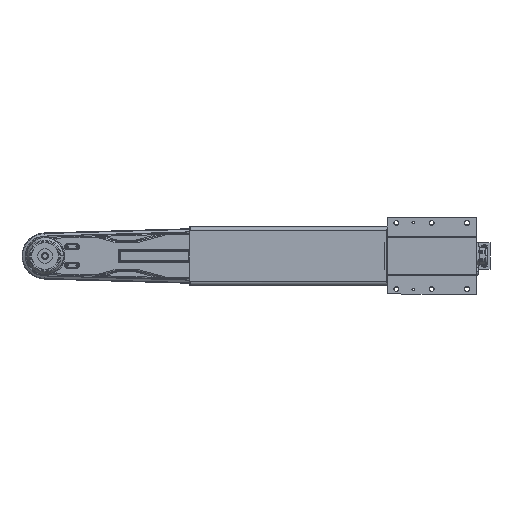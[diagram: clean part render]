
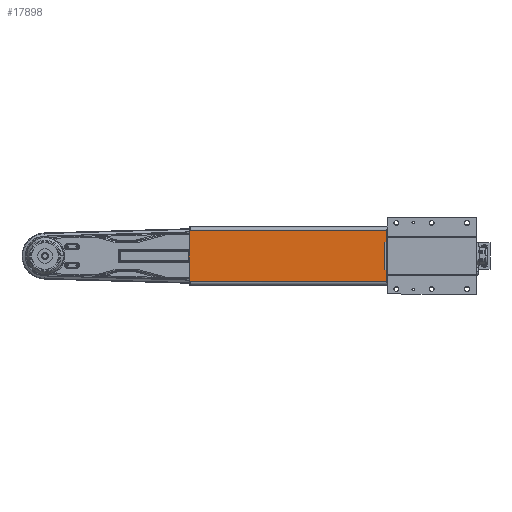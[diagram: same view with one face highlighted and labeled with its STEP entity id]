
A CAD part, front view. The second image highlights one B-rep face of the part: STEP entity #17898.
In plain terms, the highlighted planar face has unit normal (0, -1, 0).
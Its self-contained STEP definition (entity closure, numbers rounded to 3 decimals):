
#16780=DIRECTION('',(0.,0.,-1.));
#16781=VECTOR('',#16780,136.425);
#16782=CARTESIAN_POINT('',(-612.,194.,68.213));
#16783=LINE('',#16782,#16781);
#16817=CARTESIAN_POINT('',(-610.,194.,-68.345));
#16818=CARTESIAN_POINT('',(-610.,194.,-68.323));
#16819=CARTESIAN_POINT('',(-610.,194.,-68.279));
#16820=CARTESIAN_POINT('',(-610.,194.,-68.235));
#16821=CARTESIAN_POINT('',(-610.,194.,-68.213));
#16823=DIRECTION('',(1.,0.,0.));
#16824=VECTOR('',#16823,2.);
#16825=CARTESIAN_POINT('',(-612.,194.,68.213));
#16826=LINE('',#16825,#16824);
#16827=CARTESIAN_POINT('',(-610.,194.,68.213));
#16828=CARTESIAN_POINT('',(-610.,194.,68.237));
#16829=CARTESIAN_POINT('',(-610.,194.,68.285));
#16830=CARTESIAN_POINT('',(-610.,194.,68.333));
#16831=CARTESIAN_POINT('',(-610.,194.,68.357));
#16833=DIRECTION('',(1.,0.,0.));
#16834=VECTOR('',#16833,2.);
#16835=CARTESIAN_POINT('',(-612.,194.,-68.213));
#16836=LINE('',#16835,#16834);
#17126=DIRECTION('',(-1.,0.,0.));
#17127=VECTOR('',#17126,590.809);
#17128=CARTESIAN_POINT('',(-19.191,194.,68.357));
#17129=LINE('',#17128,#17127);
#17135=CARTESIAN_POINT('',(0.,194.,0.));
#17136=DIRECTION('',(0.,-1.,0.));
#17137=DIRECTION('',(-0.27,0.,0.963));
#17138=AXIS2_PLACEMENT_3D('',#17135,#17136,#17137);
#17169=CARTESIAN_POINT('',(0.,194.,0.));
#17170=DIRECTION('',(0.,1.,0.));
#17171=DIRECTION('',(-0.271,0.,-0.963));
#17172=AXIS2_PLACEMENT_3D('',#17169,#17170,#17171);
#17182=DIRECTION('',(1.,0.,0.));
#17183=VECTOR('',#17182,590.767);
#17184=CARTESIAN_POINT('',(-610.,194.,-68.345));
#17185=LINE('',#17184,#17183);
#17344=CARTESIAN_POINT('',(-612.,194.,68.213));
#17345=VERTEX_POINT('',#17344);
#17346=CARTESIAN_POINT('',(-612.,194.,-68.213));
#17347=VERTEX_POINT('',#17346);
#17360=CARTESIAN_POINT('',(-19.191,194.,68.357));
#17361=CARTESIAN_POINT('',(-35.5,194.,61.488));
#17362=VERTEX_POINT('',#17360);
#17363=VERTEX_POINT('',#17361);
#17370=CARTESIAN_POINT('',(-19.233,194.,-68.345));
#17371=VERTEX_POINT('',#17370);
#17421=VERTEX_POINT('',#16827);
#17422=VERTEX_POINT('',#16831);
#17424=CARTESIAN_POINT('',(-610.,194.001,-68.345));
#17426=VERTEX_POINT('',#17424);
#17427=VERTEX_POINT('',#16821);
#17876=CARTESIAN_POINT('',(-314.595,194.,0.006));
#17877=DIRECTION('',(0.,1.,0.));
#17878=DIRECTION('',(1.,0.,0.));
#17879=AXIS2_PLACEMENT_3D('',#17876,#17877,#17878);
#17880=PLANE('',#17879);
#17882=ORIENTED_EDGE('',*,*,#17881,.T.);
#17884=ORIENTED_EDGE('',*,*,#17883,.F.);
#17885=ORIENTED_EDGE('',*,*,#17831,.F.);
#17886=ORIENTED_EDGE('',*,*,#17861,.T.);
#17887=ORIENTED_EDGE('',*,*,#17859,.T.);
#17889=ORIENTED_EDGE('',*,*,#17888,.F.);
#17891=ORIENTED_EDGE('',*,*,#17890,.T.);
#17893=ORIENTED_EDGE('',*,*,#17892,.F.);
#17895=ORIENTED_EDGE('',*,*,#17894,.F.);
#17896=EDGE_LOOP('',(#17882,#17884,#17885,#17886,#17887,#17889,#17891,#17893,
#17895));
#17897=FACE_OUTER_BOUND('',#17896,.F.);
#16822=B_SPLINE_CURVE_WITH_KNOTS('',3,(#16817,#16818,#16819,#16820,#16821),
.UNSPECIFIED.,.F.,.F.,(4,1,4),(0.,0.5,1.),.UNSPECIFIED.);
#16832=B_SPLINE_CURVE_WITH_KNOTS('',3,(#16827,#16828,#16829,#16830,#16831),
.UNSPECIFIED.,.F.,.F.,(4,1,4),(0.,0.5,1.),.UNSPECIFIED.);
#17139=CIRCLE('',#17138,71.);
#17173=CIRCLE('',#17172,71.);
#17831=EDGE_CURVE('',#17345,#17347,#16783,.T.);
#17859=EDGE_CURVE('',#17421,#17422,#16832,.T.);
#17861=EDGE_CURVE('',#17345,#17421,#16826,.T.);
#17881=EDGE_CURVE('',#17426,#17427,#16822,.T.);
#17883=EDGE_CURVE('',#17347,#17427,#16836,.T.);
#17888=EDGE_CURVE('',#17362,#17422,#17129,.T.);
#17890=EDGE_CURVE('',#17362,#17363,#17139,.T.);
#17892=EDGE_CURVE('',#17371,#17363,#17173,.T.);
#17894=EDGE_CURVE('',#17426,#17371,#17185,.T.);
#17898=ADVANCED_FACE('',(#17897),#17880,.F.);
